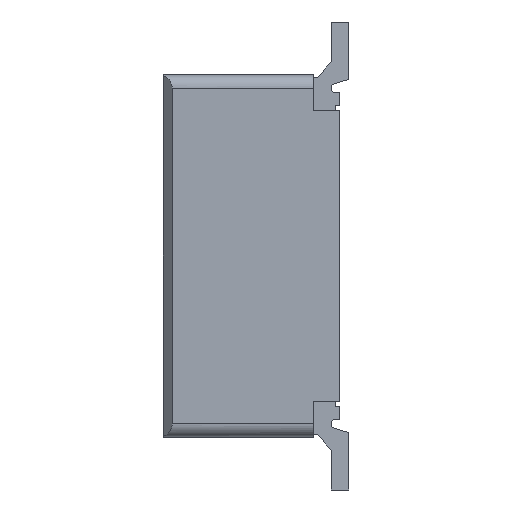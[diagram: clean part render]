
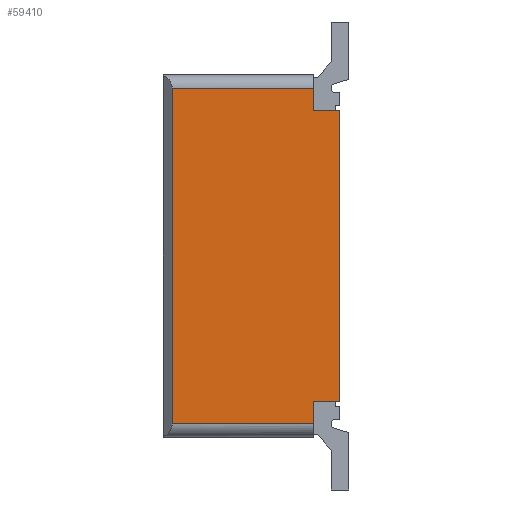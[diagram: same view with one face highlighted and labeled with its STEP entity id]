
A CAD part, left-side view. The second image highlights one B-rep face of the part: STEP entity #59410.
In plain terms, the highlighted planar face has unit normal (-1, 0, 0).
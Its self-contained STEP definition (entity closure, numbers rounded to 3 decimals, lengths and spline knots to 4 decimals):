
#1658=CARTESIAN_POINT('',(-7.55,0.9,-1.9));
#1665=DIRECTION('',(0.,1.,0.));
#1666=VECTOR('',#1665,1.6);
#1667=CARTESIAN_POINT('',(-7.55,-0.7,-1.9));
#1668=LINE('',#1667,#1666);
#1688=CARTESIAN_POINT('',(-7.55,0.9,1.9));
#1704=DIRECTION('',(0.,-1.,0.));
#1705=VECTOR('',#1704,1.6);
#1706=CARTESIAN_POINT('',(-7.55,0.9,1.9));
#1707=LINE('',#1706,#1705);
#10517=DIRECTION('',(0.,0.,-1.));
#10518=VECTOR('',#10517,3.3);
#10519=CARTESIAN_POINT('',(-7.55,-1.,1.65));
#10520=LINE('',#10519,#10518);
#10549=DIRECTION('',(0.,0.,-1.));
#10550=VECTOR('',#10549,3.8);
#10551=CARTESIAN_POINT('',(-7.55,0.9,1.9));
#10552=LINE('',#10551,#10550);
#10553=DIRECTION('',(0.,0.,-1.));
#10554=VECTOR('',#10553,0.25);
#10555=CARTESIAN_POINT('',(-7.55,-0.7,1.9));
#10556=LINE('',#10555,#10554);
#10557=DIRECTION('',(0.,1.,0.));
#10558=VECTOR('',#10557,0.3);
#10559=CARTESIAN_POINT('',(-7.55,-1.,1.65));
#10560=LINE('',#10559,#10558);
#10561=DIRECTION('',(0.,1.,0.));
#10562=VECTOR('',#10561,0.3);
#10563=CARTESIAN_POINT('',(-7.55,-1.,-1.65));
#10564=LINE('',#10563,#10562);
#10565=DIRECTION('',(0.,0.,1.));
#10566=VECTOR('',#10565,0.25);
#10567=CARTESIAN_POINT('',(-7.55,-0.7,-1.9));
#10568=LINE('',#10567,#10566);
#35785=CARTESIAN_POINT('',(-7.55,-1.,1.65));
#35786=CARTESIAN_POINT('',(-7.55,-0.7,1.65));
#35787=VERTEX_POINT('',#35785);
#35788=VERTEX_POINT('',#35786);
#35789=CARTESIAN_POINT('',(-7.55,-1.,-1.65));
#35790=CARTESIAN_POINT('',(-7.55,-0.7,-1.65));
#35791=VERTEX_POINT('',#35789);
#35792=VERTEX_POINT('',#35790);
#36089=CARTESIAN_POINT('',(-7.55,-0.7,-1.9));
#36090=VERTEX_POINT('',#36089);
#36095=CARTESIAN_POINT('',(-7.55,-0.7,1.9));
#36096=VERTEX_POINT('',#36095);
#46977=VERTEX_POINT('',#1658);
#46981=VERTEX_POINT('',#1688);
#59395=CARTESIAN_POINT('',(-7.55,1.,2.05));
#59396=DIRECTION('',(-1.,0.,0.));
#59397=DIRECTION('',(0.,-1.,0.));
#59398=AXIS2_PLACEMENT_3D('',#59395,#59396,#59397);
#59399=PLANE('',#59398);
#59400=ORIENTED_EDGE('',*,*,#48445,.F.);
#59401=ORIENTED_EDGE('',*,*,#48460,.T.);
#59402=ORIENTED_EDGE('',*,*,#48873,.T.);
#59403=ORIENTED_EDGE('',*,*,#59334,.F.);
#59404=ORIENTED_EDGE('',*,*,#59361,.T.);
#59405=ORIENTED_EDGE('',*,*,#49284,.T.);
#59406=ORIENTED_EDGE('',*,*,#48003,.F.);
#59407=ORIENTED_EDGE('',*,*,#48428,.T.);
#59408=EDGE_LOOP('',(#59400,#59401,#59402,#59403,#59404,#59405,#59406,#59407));
#59409=FACE_OUTER_BOUND('',#59408,.F.);
#59410=ADVANCED_FACE('',(#59409),#59399,.T.);
#48003=EDGE_CURVE('',#36090,#35792,#10568,.T.);
#48428=EDGE_CURVE('',#36090,#46977,#1668,.T.);
#48445=EDGE_CURVE('',#46981,#46977,#10552,.T.);
#48460=EDGE_CURVE('',#46981,#36096,#1707,.T.);
#48873=EDGE_CURVE('',#36096,#35788,#10556,.T.);
#49284=EDGE_CURVE('',#35791,#35792,#10564,.T.);
#59334=EDGE_CURVE('',#35787,#35788,#10560,.T.);
#59361=EDGE_CURVE('',#35787,#35791,#10520,.T.);
